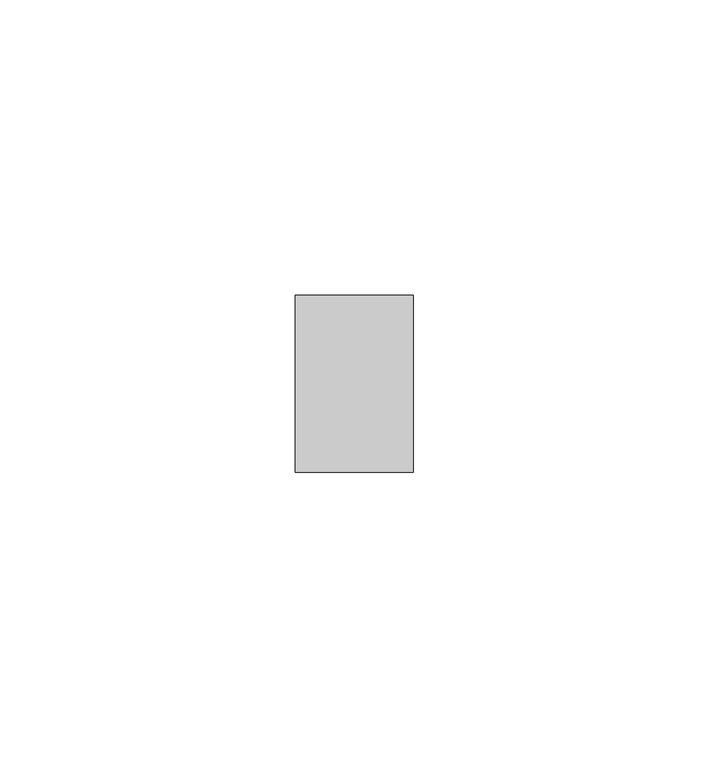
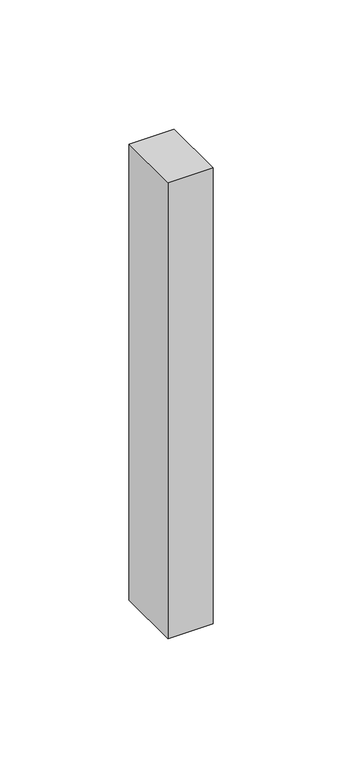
"""IFC4 building model written with IfcOpenShell, lengths in millimetres: member geometry, Прямоугольный импост : Квадрат 10 мм - Зазор между навесными плитами."""

import ifcopenshell
import ifcopenshell.guid

model = None  # the IFC model being written
_history = None  # IfcOwnerHistory: only IFC2X3 demands one
_inside = {}  # id of a spatial element -> (the spatial element, [elements in it])
_under = {}  # id of a project, library or spatial element -> (it, [spatial elements below it])
_declared = {}  # id of a project -> (the project, [libraries it declares])
_typed = {}  # id of a type object -> (the type object, [elements of that type])
_made_of = {}  # id of a material, layer set ... -> (it, [elements and type objects made of it])


def new_model(schema):
    """Start an empty IFC model of exactly this schema.

    Asked for "IFC4X3", IfcOpenShell would pick the latest addendum, in which some entities
    have other attributes; the version numbers below select the first issue.
    IFC2X3 requires an IfcOwnerHistory on every rooted entity: one is made here for all.
    """
    global model, _history
    if schema == "IFC4X3":
        model = ifcopenshell.file(schema_version=(4, 3, 0, 0))
    else:
        model = ifcopenshell.file(schema=schema)
    _inside.clear()
    _under.clear()
    _declared.clear()
    _typed.clear()
    _made_of.clear()
    _history = None
    if model.schema == "IFC2X3":
        org = make("IfcOrganization", Name="unknown")
        user = make(
            "IfcPersonAndOrganization",
            ThePerson=make("IfcPerson", FamilyName="unknown"),
            TheOrganization=org,
        )
        app = make(
            "IfcApplication",
            ApplicationDeveloper=org,
            Version="unknown",
            ApplicationFullName="unknown",
            ApplicationIdentifier="unknown",
        )
        _history = make(
            "IfcOwnerHistory",
            OwningUser=user,
            OwningApplication=app,
            ChangeAction="ADDED",
            CreationDate=0,
        )
    return model


def make(cls, **values):
    """One entity of the class cls with the attributes given. An attribute that is None is left unset."""
    return model.create_entity(
        cls, **{name: value for name, value in values.items() if value is not None}
    )


def rooted(cls, **values):
    """An entity with a GlobalId (a new one), such as an element, a storey or a relation."""
    return make(cls, GlobalId=ifcopenshell.guid.new(), OwnerHistory=_history, **values)


def si_unit(unit_type, name, prefix=None):
    """IfcSIUnit, for example si_unit("LENGTHUNIT", "METRE", prefix="MILLI")."""
    return make("IfcSIUnit", UnitType=unit_type, Prefix=prefix, Name=name)


def assignment(units):
    """IfcUnitAssignment: the units of a project."""
    return None if units is None else make("IfcUnitAssignment", Units=units)


def point(xyz):
    """IfcCartesianPoint."""
    return None if xyz is None else make("IfcCartesianPoint", Coordinates=xyz)


def direction(xyz):
    """IfcDirection."""
    return None if xyz is None else make("IfcDirection", DirectionRatios=xyz)


def frame(location, z_axis=None, x_axis=None):
    """IfcAxis2Placement3D, a coordinate frame: its origin and axes. An axis left out is left unset."""
    return make(
        "IfcAxis2Placement3D",
        Location=point(location),
        Axis=direction(z_axis),
        RefDirection=direction(x_axis),
    )


def origin():
    """The frame at (0, 0, 0) with its axes left unset."""
    return frame((0.0, 0.0, 0.0))


def place(relative_to, where):
    """IfcLocalPlacement: puts the frame where relative to a parent placement (None: the world)."""
    return make(
        "IfcLocalPlacement", PlacementRelTo=relative_to, RelativePlacement=where
    )


def context(
    kind, dimensions, precision=None, world=None, true_north=None, identifier=None
):
    """IfcGeometricRepresentationContext, for example the 3D "Model" context."""
    return make(
        "IfcGeometricRepresentationContext",
        ContextIdentifier=identifier,
        ContextType=kind,
        CoordinateSpaceDimension=dimensions,
        Precision=precision,
        WorldCoordinateSystem=world,
        TrueNorth=true_north,
    )


def project(units=None, contexts=None):
    """IfcProject with its units and contexts."""
    return rooted(
        "IfcProject",
        Name="project",
        RepresentationContexts=contexts,
        UnitsInContext=assignment(units),
    )


def spatial(cls, under=None, at=None, **own):
    """A site, building, storey or space (cls), placed at a placement, below another one or the project."""
    s = rooted(cls, ObjectPlacement=at, **own)
    if under is not None:
        _under.setdefault(under.id(), (under, []))[1].append(s)
    return s


def polyline(points):
    """IfcPolyline through the points."""
    return make("IfcPolyline", Points=[point(p) for p in points])


def outline(outer, holes=None, kind="AREA"):
    """IfcArbitraryClosedProfileDef: a profile drawn as a closed curve; with holes, ...WithVoids."""
    if holes is None:
        return make("IfcArbitraryClosedProfileDef", ProfileType=kind, OuterCurve=outer)
    return make(
        "IfcArbitraryProfileDefWithVoids",
        ProfileType=kind,
        OuterCurve=outer,
        InnerCurves=holes,
    )


def extrude(swept, where, along, depth):
    """IfcExtrudedAreaSolid: the profile swept, set in the frame where, extruded along a direction by depth."""
    return make(
        "IfcExtrudedAreaSolid",
        SweptArea=swept,
        Position=where,
        ExtrudedDirection=direction(along),
        Depth=depth,
    )


def shape(context_of_items, identifier, shape_type, items):
    """IfcShapeRepresentation: the items that make up one representation, for example the "Body"."""
    return make(
        "IfcShapeRepresentation",
        ContextOfItems=context_of_items,
        RepresentationIdentifier=identifier,
        RepresentationType=shape_type,
        Items=items,
    )


def source(mapping_origin, context_of_items, identifier, shape_type, items):
    """IfcRepresentationMap: a shape defined once, which mapped items show again and again."""
    return make(
        "IfcRepresentationMap",
        MappingOrigin=mapping_origin,
        MappedRepresentation=shape(context_of_items, identifier, shape_type, items),
    )


def transform(
    local_origin,
    x_axis=None,
    y_axis=None,
    z_axis=None,
    scale=None,
    scale2=None,
    scale3=None,
    uniform=True,
):
    """IfcCartesianTransformationOperator3D, or its non-uniform kind. x_axis, y_axis, z_axis: its Axis1, 2, 3."""
    if uniform:
        return make(
            "IfcCartesianTransformationOperator3D",
            Axis1=direction(x_axis),
            Axis2=direction(y_axis),
            LocalOrigin=point(local_origin),
            Scale=scale,
            Axis3=direction(z_axis),
        )
    return make(
        "IfcCartesianTransformationOperator3DnonUniform",
        Axis1=direction(x_axis),
        Axis2=direction(y_axis),
        LocalOrigin=point(local_origin),
        Scale=scale,
        Axis3=direction(z_axis),
        Scale2=scale2,
        Scale3=scale3,
    )


def mapped(mapping_source, mapping_target):
    """IfcMappedItem: shows the shape of a source again, moved by a transform."""
    return make(
        "IfcMappedItem", MappingSource=mapping_source, MappingTarget=mapping_target
    )


def made_of(thing, what):
    """Note that an element or type object is made of a material, layer set ...; save() writes the relation."""
    if what is not None:
        _made_of.setdefault(what.id(), (what, []))[1].append(thing)
    return thing


def element(
    cls,
    number,
    at=None,
    inside=None,
    cuts=None,
    type_object=None,
    material=None,
    context=None,
    identifier="Body",
    shape_type=None,
    held_by="IfcProductDefinitionShape",
    body=None,
    shapes=None,
    **own,
):
    """One element of the class cls, such as IfcWall. Its Tag is "e" and its number.

    at: its placement. inside: the storey or other place that contains it. cuts: it is an
    opening in that element (IfcRelVoidsElement). A single representation is given by context,
    identifier, shape_type and body (its items); several are given by shapes. held_by: the class
    of the entity that holds the representations. save() writes the other relations.
    """
    e = rooted(cls, Tag="e%d" % number, ObjectPlacement=at, **own)
    if body is not None:
        shapes = [shape(context, identifier, shape_type, body)]
    if shapes is not None:
        e.Representation = make(held_by, Representations=shapes)
    if inside is not None:
        _inside.setdefault(inside.id(), (inside, []))[1].append(e)
    if cuts is not None:
        rooted(
            "IfcRelVoidsElement", RelatingBuildingElement=cuts, RelatedOpeningElement=e
        )
    if type_object is not None:
        _typed.setdefault(type_object.id(), (type_object, []))[1].append(e)
    return made_of(e, material)


def aggregate(whole, parts):
    """IfcRelAggregates: a whole, such as a stair, and the parts it consists of."""
    return rooted("IfcRelAggregates", RelatingObject=whole, RelatedObjects=parts)


def save(model, path):
    """Write the relations noted so far, then the file.

    IfcRelAggregates (storeys below a building ...), IfcRelContainedInSpatialStructure (elements
    in a storey), IfcRelDefinesByType, IfcRelAssociatesMaterial and IfcRelDeclares: one each for
    every whole, place, type object, material and project.
    """
    for whole, parts in _under.values():
        aggregate(whole, parts)
    for where, things in _inside.values():
        rooted(
            "IfcRelContainedInSpatialStructure",
            RelatedElements=things,
            RelatingStructure=where,
        )
    for kind, things in _typed.values():
        rooted("IfcRelDefinesByType", RelatedObjects=things, RelatingType=kind)
    for what, things in _made_of.values():
        rooted("IfcRelAssociatesMaterial", RelatedObjects=things, RelatingMaterial=what)
    for by, libraries in _declared.values():
        rooted("IfcRelDeclares", RelatingContext=by, RelatedDefinitions=libraries)
    model.write(path)


def member_a8663b79(model_context):
    return source(origin(), model_context, "Body", "SweptSolid", [
        extrude(outline(polyline([(0.0, 15.0), (0.0, -15.0), (-20.0, -15.0), (-20.0, 15.0), (0.0, 15.0)])), frame((0.0, 0.0, -215.0), z_axis=(0.0, 0.0, 1.0), x_axis=(1.0, 0.0, 0.0)), (0.0, 0.0, 1.0), 215.0),
    ])


if __name__ == "__main__":
    model = new_model("IFC4")
    model_context = context("Model", 3, world=origin())
    ifc_project = project(units=[si_unit("LENGTHUNIT", "METRE", prefix="MILLI")], contexts=[model_context])
    site = spatial("IfcSite", under=ifc_project)
    building = spatial("IfcBuilding", under=site)
    placement = place(None, origin())
    member_shape = member_a8663b79(model_context)
    element("IfcMember", 1, ObjectType="Прямоугольный импост : Квадрат 10 мм - Зазор между навесными плитами", at=placement, inside=building, context=model_context, shape_type="MappedRepresentation", body=[
        mapped(member_shape, transform((0.0, 0.0, 0.0), x_axis=(1.0, 0.0, 0.0), y_axis=(0.0, 1.0, 0.0), z_axis=(0.0, 0.0, 1.0))),
    ])
    save(model, "model.ifc")
